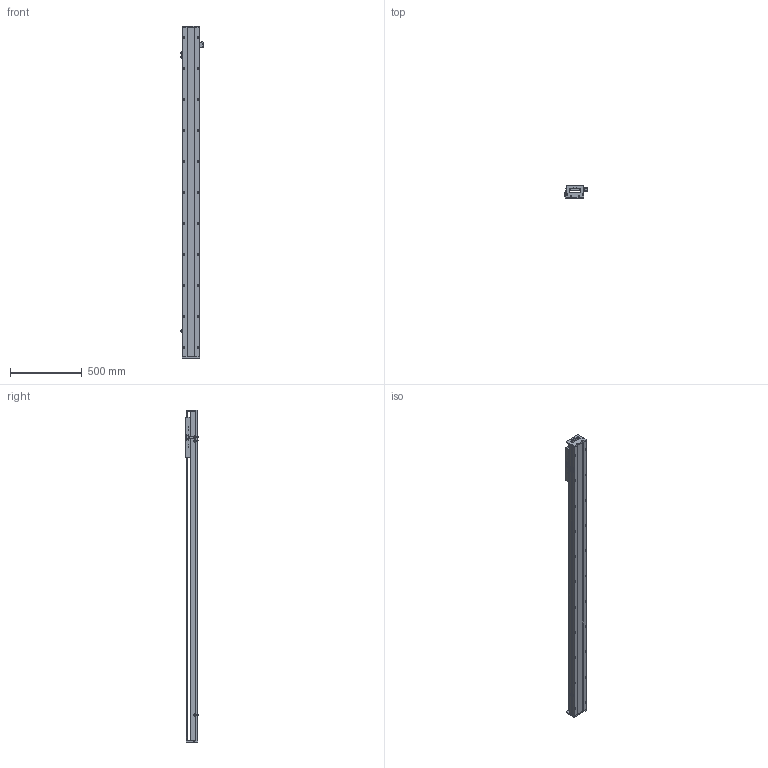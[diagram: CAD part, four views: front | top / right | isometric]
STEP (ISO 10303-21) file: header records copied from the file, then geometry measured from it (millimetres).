
FILE_DESCRIPTION (( 'STEP AP203' ), '1' );
FILE_NAME ('SKR12S-C2-S1936（简）.STEP', '2022-09-26T05:36:47', ( '' ), ( '' ), 'SwSTEP 2.0', 'SolidWorks 2018', '' );
FILE_SCHEMA (( 'CONFIG_CONTROL_DESIGN' ));
Length unit declared in the file: millimetre
Products named in the file (8): EE-SX672; SKR12S-C2-S1936（简）; SKR12滑台-280L（简）; 棠掑假蚾輸; SKR12菁釱-C2-S1936(潠); 覜茼え; SKR12耜啣; SIKO棠掑
Assembly tree (10 placements, depth 2):
  SKR12S-C2-S1936（简）
    SKR12菁釱-C2-S1936(潠)
    SKR12滑台-280L（简）
    SKR12耜啣  x2
    棠掑假蚾輸
    SIKO棠掑
    EE-SX672  x3
    覜茼え
Bounding box: 162.7 x 87.3 x 2316 mm (x, y, z)
Volume: 10216464 mm3; surface area: 1597235.4 mm2
Topology: 11 solids, 11 shells, 1114 faces, 2985 edges, 1883 vertices
Faces by surface type: cylinder 540, plane 420, cone 154
Entity records: 31435 total; most frequent: CARTESIAN_POINT 6807, DIRECTION 5077, ORIENTED_EDGE 4894, EDGE_CURVE 2447, AXIS2_PLACEMENT_3D 1897, VERTEX_POINT 1587, LINE 1283, VECTOR 1283
